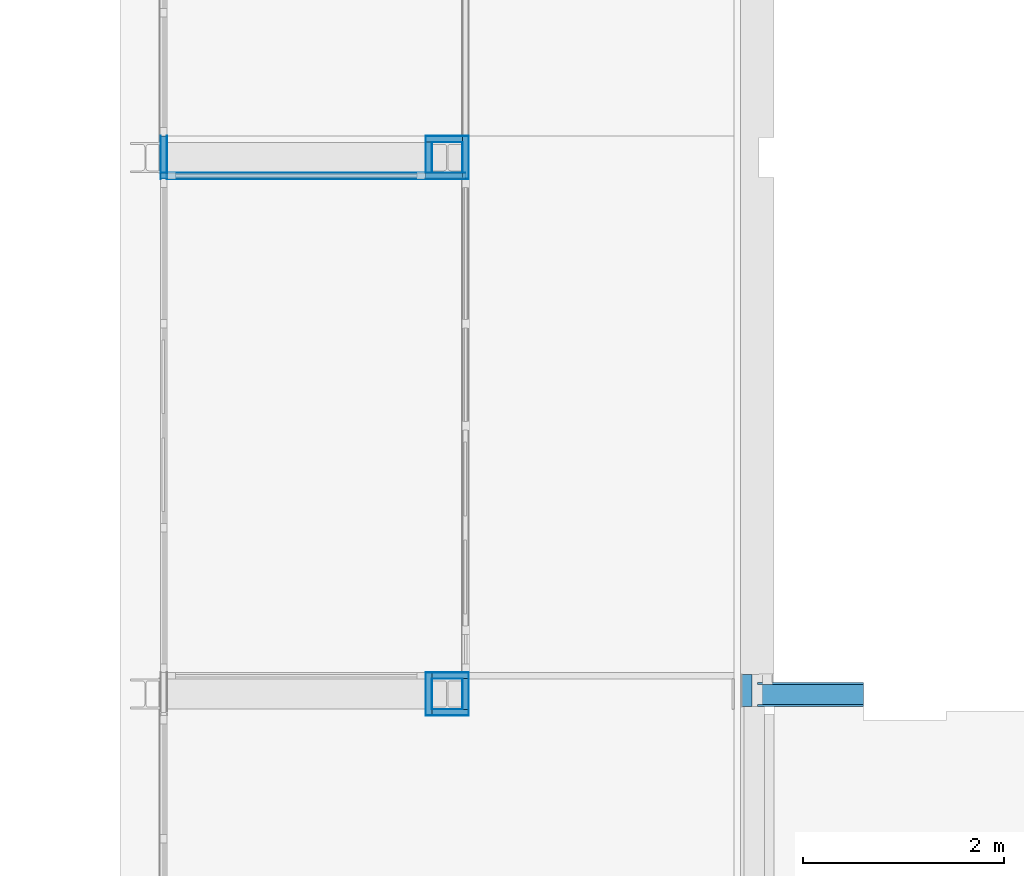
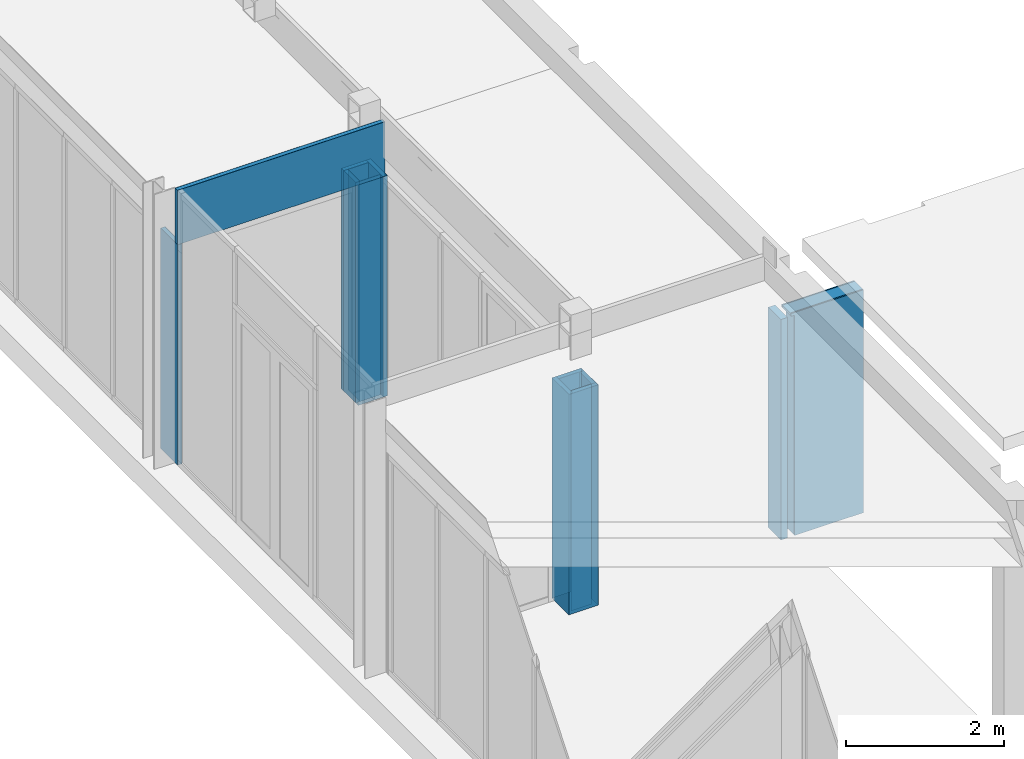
# One storey, part 64 of 99: 34 building element parts, 12 elements without a shape of their own.
"""IFC2X3 building model written with IfcOpenShell, lengths in millimetres."""

from ifc_helpers import new_model, entity, si_unit, converted_unit, derived_unit, money_unit, direction, frame, origin_with_axes, place, context, subcontext, project, spatial, faceted_brep, material, type_object, element, aggregate, save


model = new_model("IFC2X3")

# Units and contexts
model_context = context("Model", 3, precision=0.01, world=origin_with_axes(), true_north=direction((0.0, 1.0)))
body_context = subcontext(model_context, "Body", "Model", "MODEL_VIEW")
ifc_project = project(units=[si_unit("LENGTHUNIT", "METRE", prefix="MILLI"), si_unit("AREAUNIT", "SQUARE_METRE"), si_unit("VOLUMEUNIT", "CUBIC_METRE"), converted_unit("PLANEANGLEUNIT", "DEGREE", entity("IfcPlaneAngleMeasure", 0.0174532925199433), si_unit("PLANEANGLEUNIT", "RADIAN"), dimensions=[0, 0, 0, 0, 0, 0, 0]), money_unit("EUR"), converted_unit("TIMEUNIT", "Year", entity("IfcTimeMeasure", 31557600.0), si_unit("TIMEUNIT", "SECOND"), dimensions=[0, 0, 1, 0, 0, 0, 0]), si_unit("MASSUNIT", "GRAM", prefix="KILO"), si_unit("THERMODYNAMICTEMPERATUREUNIT", "DEGREE_CELSIUS"), si_unit("LUMINOUSINTENSITYUNIT", "LUMEN"), si_unit("ENERGYUNIT", "JOULE", prefix="MEGA"), derived_unit("THERMALCONDUCTANCEUNIT", [(si_unit("POWERUNIT", "WATT"), 1), (si_unit("LENGTHUNIT", "METRE"), -1), (si_unit("THERMODYNAMICTEMPERATUREUNIT", "KELVIN"), -1)]), derived_unit("SPECIFICHEATCAPACITYUNIT", [(si_unit("ENERGYUNIT", "JOULE"), 1), (si_unit("MASSUNIT", "GRAM", prefix="KILO"), -1), (si_unit("THERMODYNAMICTEMPERATUREUNIT", "KELVIN"), -1)]), derived_unit("MASSDENSITYUNIT", [(si_unit("MASSUNIT", "GRAM", prefix="KILO"), 1), (si_unit("VOLUMEUNIT", "CUBIC_METRE"), -1)])], contexts=[model_context])

# Site, building, storey
site_placement = place(None, origin_with_axes())
site = spatial("IfcSite", under=ifc_project, at=site_placement, Name="Site", CompositionType="ELEMENT")
building_placement = place(site_placement, origin_with_axes())
building = spatial("IfcBuilding", under=site, at=building_placement, Name="Naam gebouw", CompositionType="ELEMENT")
storey_placement = place(building_placement, frame((0.0, 0.0, 7650.0), z_axis=(0.0, 0.0, 1.0), x_axis=(1.0, 0.0, 0.0)))
storey = spatial("IfcBuildingStorey", under=building, at=storey_placement, Name="2e verdieping N", CompositionType="ELEMENT", Elevation=7650.0)

# Wall, building element parts
wall_type_1 = type_object("IfcWallType", Name="Basic Wall:31_WA_ALU_PANEEL", PredefinedType="STANDARD")
wall_1_placement = place(storey_placement, frame((17108.50000005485, 27773.41242635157, -3500.0), z_axis=(0.0, 0.0, 1.0), x_axis=(1.0, 0.0, 0.0)))
wall_1 = element("IfcWall", 1, at=wall_1_placement, inside=storey, type_object=wall_type_1, Name="Basic Wall:31_WA_ALU_PANEEL")
ifc_material_1 = material(Name="Aluminum geanodiseerd RAL 7024")
building_element_part_1_placement = place(wall_1_placement, origin_with_axes())
building_element_part_1 = element("IfcBuildingElementPart", 2, at=building_element_part_1_placement, material=ifc_material_1, Name="Aluminum geanodiseerd RAL 7024", context=body_context, shape_type="Brep", body=[
    faceted_brep([(334.9999999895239, 29.99999996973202, 0.0), (32.49999999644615, 29.99999996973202, 0.0), (32.4999999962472, 32.4999999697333, 0.0), (334.9999999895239, 32.4999999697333, 0.0), (334.9999999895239, 29.99999996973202, 3399.999999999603), (32.49999999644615, 29.99999996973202, 3399.999999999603), (32.4999999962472, 32.4999999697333, 3399.999999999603), (334.9999999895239, 32.4999999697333, 3399.999999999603)], [[[0, 1, 2, 3]], [[4, 5, 1, 0]], [[2, 1, 5, 6]], [[3, 2, 6, 7]], [[3, 7, 4, 0]], [[7, 6, 5, 4]]]),
])
ifc_material_2 = material(Name="isolatie_080_1-100")
building_element_part_2_placement = place(wall_1_placement, origin_with_axes())
building_element_part_2 = element("IfcBuildingElementPart", 3, at=building_element_part_2_placement, material=ifc_material_2, Name="isolatie_080_1-100", context=body_context, shape_type="Brep", body=[
    faceted_brep([(394.9999999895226, -30.0000000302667, 0.0), (30.00000000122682, -30.0000000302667, 0.0), (29.99999999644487, 29.99999996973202, 0.0), (394.9999999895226, 29.99999996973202, 0.0), (394.9999999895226, -30.0000000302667, 3399.999999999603), (30.00000000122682, -30.0000000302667, 3399.999999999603), (29.99999999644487, 29.99999996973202, 3399.999999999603), (394.9999999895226, 29.99999996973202, 3399.999999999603)], [[[0, 1, 2, 3]], [[4, 5, 1, 0]], [[2, 1, 5, 6]], [[3, 2, 6, 7]], [[3, 7, 4, 0]], [[7, 6, 5, 4]]]),
])
building_element_part_3_placement = place(wall_1_placement, origin_with_axes())
building_element_part_3 = element("IfcBuildingElementPart", 4, at=building_element_part_3_placement, material=ifc_material_1, Name="Aluminum geanodiseerd RAL 7024", context=body_context, shape_type="Brep", body=[
    faceted_brep([(397.4999999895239, -32.50000003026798, 0.0), (-29.99999999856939, -32.50000003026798, 0.0), (-29.9999999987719, -30.0000000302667, 0.0), (397.4999999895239, -30.0000000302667, 0.0), (397.4999999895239, -32.50000003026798, 3399.999999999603), (-29.99999999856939, -32.50000003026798, 3399.999999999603), (-29.9999999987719, -30.0000000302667, 3399.999999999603), (397.4999999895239, -30.0000000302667, 3399.999999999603)], [[[0, 1, 2, 3]], [[4, 5, 1, 0]], [[2, 1, 5, 6]], [[3, 2, 6, 7]], [[3, 7, 4, 0]], [[7, 6, 5, 4]]]),
])
aggregate(wall_1, [building_element_part_1, building_element_part_2, building_element_part_3])

wall_2_placement = place(storey_placement, frame((14474.50000003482, 33070.9124263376, -3500.0), z_axis=(0.0, 0.0, 1.0), x_axis=(0.0, 1.0, 0.0)))
wall_2 = element("IfcWall", 5, at=wall_2_placement, inside=storey, type_object=wall_type_1, Name="Basic Wall:31_WA_ALU_PANEEL")
building_element_part_4_placement = place(wall_2_placement, origin_with_axes())
building_element_part_4 = element("IfcBuildingElementPart", 6, at=building_element_part_4_placement, material=ifc_material_1, Name="Aluminum geanodiseerd RAL 7024", context=body_context, shape_type="Brep", body=[
    faceted_brep([(429.9999999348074, 32.49999996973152, 0.0), (429.9999999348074, 29.99999996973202, 0.0), (0.0, 29.99999996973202, 0.0), (0.0, 32.49999996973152, 0.0), (429.9999999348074, 32.49999996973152, 3399.999999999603), (429.9999999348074, 29.99999996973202, 3399.999999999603), (0.0, 29.99999996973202, 3399.999999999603), (0.0, 32.49999996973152, 3399.999999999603)], [[[0, 1, 2, 3]], [[0, 4, 5, 1]], [[1, 5, 6, 2]], [[3, 2, 6, 7]], [[4, 0, 3, 7]], [[5, 4, 7, 6]]]),
])
building_element_part_5_placement = place(wall_2_placement, origin_with_axes())
building_element_part_5 = element("IfcBuildingElementPart", 7, at=building_element_part_5_placement, material=ifc_material_2, Name="isolatie_080_1-100", context=body_context, shape_type="Brep", body=[
    faceted_brep([(429.9999999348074, 29.99999996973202, 0.0), (429.9999999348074, -30.00000003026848, 0.0), (0.0, -30.00000003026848, 0.0), (0.0, 29.99999996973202, 0.0), (429.9999999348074, 29.99999996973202, 3399.999999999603), (429.9999999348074, -30.00000003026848, 3399.999999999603), (0.0, -30.00000003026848, 3399.999999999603), (0.0, 29.99999996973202, 3399.999999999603)], [[[0, 1, 2, 3]], [[0, 4, 5, 1]], [[1, 5, 6, 2]], [[3, 2, 6, 7]], [[4, 0, 3, 7]], [[5, 4, 7, 6]]]),
])
building_element_part_6_placement = place(wall_2_placement, origin_with_axes())
building_element_part_6 = element("IfcBuildingElementPart", 8, at=building_element_part_6_placement, material=ifc_material_1, Name="Aluminum geanodiseerd RAL 7024", context=body_context, shape_type="Brep", body=[
    faceted_brep([(429.9999999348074, -30.00000003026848, 0.0), (429.9999999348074, -32.50000003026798, 0.0), (0.0, -32.50000003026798, 0.0), (0.0, -30.00000003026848, 0.0), (429.9999999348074, -30.00000003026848, 3399.999999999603), (429.9999999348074, -32.50000003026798, 3399.999999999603), (0.0, -32.50000003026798, 3399.999999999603), (0.0, -30.00000003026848, 3399.999999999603)], [[[0, 1, 2, 3]], [[0, 4, 5, 1]], [[1, 5, 6, 2]], [[3, 2, 6, 7]], [[4, 0, 3, 7]], [[5, 4, 7, 6]]]),
])
aggregate(wall_2, [building_element_part_4, building_element_part_5, building_element_part_6])

wall_3_placement = place(storey_placement, frame((17108.50000002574, 28138.41242634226, -3500.0), z_axis=(0.0, 0.0, 1.0), x_axis=(0.0, -1.0, 0.0)))
wall_3 = element("IfcWall", 9, at=wall_3_placement, inside=storey, type_object=wall_type_1, Name="Basic Wall:31_WA_ALU_PANEEL")
building_element_part_7_placement = place(wall_3_placement, origin_with_axes())
building_element_part_7 = element("IfcBuildingElementPart", 10, at=building_element_part_7_placement, material=ifc_material_1, Name="Aluminum geanodiseerd RAL 7024", context=body_context, shape_type="Brep", body=[
    faceted_brep([(335.0000000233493, 29.99999997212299, 0.0), (29.99999997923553, 29.99999999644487, 0.0), (29.99999997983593, 32.49999999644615, 0.0), (335.0000000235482, 32.49999997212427, 0.0), (335.0000000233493, 29.99999997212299, 3399.999999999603), (29.99999997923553, 29.99999999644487, 3399.999999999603), (29.99999997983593, 32.49999999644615, 3399.999999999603), (335.0000000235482, 32.49999997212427, 3399.999999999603)], [[[0, 1, 2, 3]], [[4, 5, 1, 0]], [[2, 1, 5, 6]], [[3, 2, 6, 7]], [[3, 7, 4, 0]], [[7, 6, 5, 4]]]),
])
building_element_part_8_placement = place(wall_3_placement, origin_with_axes())
building_element_part_8 = element("IfcBuildingElementPart", 11, at=building_element_part_8_placement, material=ifc_material_2, Name="isolatie_080_1-100", context=body_context, shape_type="Brep", body=[
    faceted_brep([(395.0000000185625, -30.00000003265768, 0.0), (-30.00000003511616, -29.9999999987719, 0.0), (-30.0000000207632, 30.00000000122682, 0.0), (395.000000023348, 29.99999996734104, 0.0), (395.0000000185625, -30.00000003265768, 3399.999999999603), (-30.00000003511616, -29.9999999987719, 3399.999999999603), (-30.0000000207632, 30.00000000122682, 3399.999999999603), (395.000000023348, 29.99999996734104, 3399.999999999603)], [[[0, 1, 2, 3]], [[4, 5, 1, 0]], [[2, 1, 5, 6]], [[3, 2, 6, 7]], [[3, 7, 4, 0]], [[7, 6, 5, 4]]]),
])
building_element_part_9_placement = place(wall_3_placement, origin_with_axes())
building_element_part_9 = element("IfcBuildingElementPart", 12, at=building_element_part_9_placement, material=ifc_material_1, Name="Aluminum geanodiseerd RAL 7024", context=body_context, shape_type="Brep", body=[
    faceted_brep([(397.5000000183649, -32.50000003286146, 0.0), (-32.50000003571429, -32.49999999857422, 0.0), (-32.50000003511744, -29.99999999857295, 0.0), (397.5000000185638, -30.00000003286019, 0.0), (397.5000000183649, -32.50000003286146, 3399.999999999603), (-32.50000003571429, -32.49999999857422, 3399.999999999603), (-32.50000003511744, -29.99999999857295, 3399.999999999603), (397.5000000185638, -30.00000003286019, 3399.999999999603)], [[[0, 1, 2, 3]], [[4, 5, 1, 0]], [[2, 1, 5, 6]], [[3, 2, 6, 7]], [[3, 7, 4, 0]], [[7, 6, 5, 4]]]),
])
aggregate(wall_3, [building_element_part_7, building_element_part_8, building_element_part_9])

wall_4_placement = place(storey_placement, frame((17473.50000001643, 33103.41242630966, -3500.0), z_axis=(0.0, 0.0, 1.0), x_axis=(0.0, 1.0, 0.0)))
wall_4 = element("IfcWall", 13, at=wall_4_placement, inside=storey, type_object=wall_type_1, Name="Basic Wall:31_WA_ALU_PANEEL")
building_element_part_10_placement = place(wall_4_placement, origin_with_axes())
building_element_part_10 = element("IfcBuildingElementPart", 14, at=building_element_part_10_placement, material=ifc_material_1, Name="Aluminum geanodiseerd RAL 7024", context=body_context, shape_type="Brep", body=[
    faceted_brep([(397.499999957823, -32.50000006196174, 0.0), (-32.50000002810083, -32.5000000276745, 0.0), (-32.50000002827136, -30.00000002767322, 0.0), (397.499999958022, -30.00000006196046, 0.0), (397.499999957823, -32.50000006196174, 3399.999999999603), (-32.50000002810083, -32.5000000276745, 3399.999999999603), (-32.50000002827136, -30.00000002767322, 3399.999999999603), (397.499999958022, -30.00000006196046, 3399.999999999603)], [[[0, 1, 2, 3]], [[4, 5, 1, 0]], [[2, 1, 5, 6]], [[3, 2, 6, 7]], [[3, 7, 4, 0]], [[7, 6, 5, 4]]]),
])
building_element_part_11_placement = place(wall_4_placement, origin_with_axes())
building_element_part_11 = element("IfcBuildingElementPart", 15, at=building_element_part_11_placement, material=ifc_material_2, Name="isolatie_080_1-100", context=body_context, shape_type="Brep", body=[
    faceted_brep([(394.9999999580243, -30.00000006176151, 0.0), (-30.00000002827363, -30.00000002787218, 0.0), (-30.00000003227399, 29.99999997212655, 0.0), (394.9999999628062, 29.99999993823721, 0.0), (394.9999999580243, -30.00000006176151, 3399.999999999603), (-30.00000002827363, -30.00000002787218, 3399.999999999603), (-30.00000003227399, 29.99999997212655, 3399.999999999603), (394.9999999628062, 29.99999993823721, 3399.999999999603)], [[[0, 1, 2, 3]], [[4, 5, 1, 0]], [[2, 1, 5, 6]], [[3, 2, 6, 7]], [[3, 7, 4, 0]], [[7, 6, 5, 4]]]),
])

wall_5_placement = place(storey_placement, frame((17108.50000002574, 33468.41242630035, -3500.0), z_axis=(0.0, 0.0, 1.0), x_axis=(1.0, 0.0, 0.0)))
wall_5 = element("IfcWall", 16, at=wall_5_placement, inside=storey, type_object=wall_type_1, Name="Basic Wall:31_WA_ALU_PANEEL")
building_element_part_12_placement = place(wall_5_placement, origin_with_axes())
building_element_part_12 = element("IfcBuildingElementPart", 17, at=building_element_part_12_placement, material=ifc_material_1, Name="Aluminum geanodiseerd RAL 7024", context=body_context, shape_type="Brep", body=[
    faceted_brep([(394.9999999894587, 29.99999996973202, 0.0), (-32.4999999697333, 29.99999996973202, 0.0), (-32.4999999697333, 32.49999996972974, 0.0), (394.9999999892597, 32.49999996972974, 0.0), (394.9999999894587, 29.99999996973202, 3399.999999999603), (-32.4999999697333, 29.99999996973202, 3399.999999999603), (-32.4999999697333, 32.49999996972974, 3399.999999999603), (394.9999999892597, 32.49999996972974, 3399.999999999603)], [[[0, 1, 2, 3]], [[4, 5, 1, 0]], [[2, 1, 5, 6]], [[3, 2, 6, 7]], [[3, 7, 4, 0]], [[7, 6, 5, 4]]]),
])
building_element_part_13_placement = place(wall_5_placement, origin_with_axes())
building_element_part_13 = element("IfcBuildingElementPart", 18, at=building_element_part_13_placement, material=ifc_material_2, Name="isolatie_080_1-100", context=body_context, shape_type="Brep", body=[
    faceted_brep([(334.9999999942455, -30.00000003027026, 0.0), (-29.99999996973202, -30.00000003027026, 0.0), (-29.99999996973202, 29.99999996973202, 0.0), (334.99999998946, 29.99999996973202, 0.0), (334.9999999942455, -30.00000003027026, 3399.999999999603), (-29.99999996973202, -30.00000003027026, 3399.999999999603), (-29.99999996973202, 29.99999996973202, 3399.999999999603), (334.99999998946, 29.99999996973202, 3399.999999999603)], [[[0, 1, 2, 3]], [[4, 5, 1, 0]], [[2, 1, 5, 6]], [[3, 2, 6, 7]], [[3, 7, 4, 0]], [[7, 6, 5, 4]]]),
])
building_element_part_14_placement = place(wall_5_placement, origin_with_axes())
building_element_part_14 = element("IfcBuildingElementPart", 19, at=building_element_part_14_placement, material=ifc_material_1, Name="Aluminum geanodiseerd RAL 7024", context=body_context, shape_type="Brep", body=[
    faceted_brep([(332.4999999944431, -32.50000003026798, 0.0), (30.0000000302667, -32.50000003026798, 0.0), (30.0000000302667, -30.00000003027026, 0.0), (332.4999999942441, -30.00000003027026, 0.0), (332.4999999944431, -32.50000003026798, 3399.999999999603), (30.0000000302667, -32.50000003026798, 3399.999999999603), (30.0000000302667, -30.00000003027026, 3399.999999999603), (332.4999999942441, -30.00000003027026, 3399.999999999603)], [[[0, 1, 2, 3]], [[4, 5, 1, 0]], [[2, 1, 5, 6]], [[3, 2, 6, 7]], [[3, 7, 4, 0]], [[7, 6, 5, 4]]]),
])
aggregate(wall_5, [building_element_part_12, building_element_part_13, building_element_part_14])

# Building element part
building_element_part_15_placement = place(wall_4_placement, origin_with_axes())
building_element_part_15 = element("IfcBuildingElementPart", 20, at=building_element_part_15_placement, material=ifc_material_1, Name="Aluminum geanodiseerd RAL 7024", context=body_context, shape_type="Brep", body=[
    faceted_brep([(334.9999999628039, 29.99999994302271, 0.0), (29.99999996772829, 29.99999996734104, 0.0), (29.99999996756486, 32.49999996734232, 0.0), (334.99999996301, 32.49999994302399, 0.0), (334.9999999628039, 29.99999994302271, 3399.999999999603), (29.99999996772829, 29.99999996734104, 3399.999999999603), (29.99999996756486, 32.49999996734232, 3399.999999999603), (334.99999996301, 32.49999994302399, 3399.999999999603)], [[[0, 1, 2, 3]], [[4, 5, 1, 0]], [[2, 1, 5, 6]], [[3, 2, 6, 7]], [[3, 7, 4, 0]], [[7, 6, 5, 4]]]),
])

aggregate(wall_4, [building_element_part_10, building_element_part_11, building_element_part_15])

# Wall, building element parts
wall_type_2 = type_object("IfcWallType", Name="Basic Wall:NLRS_20_bestaand 240mm", PredefinedType="STANDARD")
wall_6_placement = place(storey_placement, frame((20371.00000006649, 27950.91242628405, -3500.0), z_axis=(0.0, 0.0, 1.0), x_axis=(1.0, 0.0, 0.0)))
wall_6 = element("IfcWall", 21, at=wall_6_placement, inside=storey, type_object=wall_type_2, Name="Basic Wall:NLRS_20_bestaand 240mm")
ifc_material_3 = material(Name="Bestaand metselwerk")
building_element_part_16_placement = place(wall_6_placement, origin_with_axes())
building_element_part_16 = element("IfcBuildingElementPart", 22, at=building_element_part_16_placement, material=ifc_material_3, Name="Bestaand metselwerk", context=body_context, shape_type="Brep", body=[
    faceted_brep([(1054.999999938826, -99.99999993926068, 3440.000000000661), (1054.999999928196, 100.0000000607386, 3440.000000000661), (-1.169553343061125e-08, 100.0000000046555, 3439.999999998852), (-1.06581410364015e-09, -99.99999999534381, 3439.999999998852), (1054.999999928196, 100.0000000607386, 0.0), (1054.999999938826, -99.99999993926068, 0.0), (49.99999999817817, 100.0000000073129, 0.0), (49.99999999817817, 100.0000000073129, 3399.999999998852), (-1.169553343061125e-08, 100.0000000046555, 3399.999999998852), (-1.06581410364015e-09, -99.99999999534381, 3399.999999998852), (50.00000000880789, -99.99999999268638, 3399.999999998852), (50.00000000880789, -99.99999999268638, 0.0)], [[[0, 1, 2, 3]], [[4, 1, 0, 5]], [[1, 4, 6, 7, 8, 2]], [[2, 8, 9, 3]], [[5, 0, 3, 9, 10, 11]], [[4, 5, 11, 6]], [[10, 7, 6, 11]], [[9, 8, 7, 10]]]),
])
ifc_material_4 = material(Name="stucwerk")
building_element_part_17_placement = place(wall_6_placement, origin_with_axes())
building_element_part_17 = element("IfcBuildingElementPart", 23, at=building_element_part_17_placement, material=ifc_material_4, Name="stucwerk", context=body_context, shape_type="Brep", body=[
    faceted_brep([(1054.999999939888, -119.9999999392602, 3440.000000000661), (1054.999999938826, -99.99999993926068, 3440.000000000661), (-1.06581410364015e-09, -99.99999999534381, 3439.999999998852), (0.0, -119.9999999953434, 3439.999999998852), (1054.999999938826, -99.99999993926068, 0.0), (1054.999999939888, -119.9999999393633, 0.0), (50.00000000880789, -99.99999999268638, 0.0), (50.00000000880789, -99.99999999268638, 3399.999999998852), (-1.06581410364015e-09, -99.99999999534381, 3399.999999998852), (0.0, -119.9999999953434, 3399.999999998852), (50.00000000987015, -119.9999999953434, 3399.999999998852), (50.00000000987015, -119.9999999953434, 0.0)], [[[0, 1, 2, 3]], [[4, 1, 0, 5]], [[1, 4, 6, 7, 8, 2]], [[2, 8, 9, 3]], [[5, 0, 3, 9, 10, 11]], [[4, 5, 11, 6]], [[10, 7, 6, 11]], [[9, 8, 7, 10]]]),
])
building_element_part_18_placement = place(wall_6_placement, origin_with_axes())
building_element_part_18 = element("IfcBuildingElementPart", 24, at=building_element_part_18_placement, material=ifc_material_4, Name="stucwerk", context=body_context, shape_type="Brep", body=[
    faceted_brep([(1054.999999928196, 100.0000000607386, 3440.000000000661), (1054.99999992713, 120.0000000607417, 3440.000000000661), (-1.27613475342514e-08, 120.000000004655, 3439.999999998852), (-1.169553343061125e-08, 100.0000000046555, 3439.999999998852), (1054.99999992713, 120.0000000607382, 0.0), (1054.999999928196, 100.0000000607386, 0.0), (149.9999999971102, 120.0000000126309, 0.0), (149.9999999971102, 120.0000000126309, 3399.999999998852), (-1.27613475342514e-08, 120.000000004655, 3399.999999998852), (-1.169553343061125e-08, 100.0000000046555, 3399.999999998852), (149.999999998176, 100.0000000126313, 3399.999999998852), (149.999999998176, 100.0000000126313, 0.0)], [[[0, 1, 2, 3]], [[4, 1, 0, 5]], [[1, 4, 6, 7, 8, 2]], [[2, 8, 9, 3]], [[5, 0, 3, 9, 10, 11]], [[4, 5, 11, 6]], [[10, 7, 6, 11]], [[8, 7, 10, 9]]]),
])
aggregate(wall_6, [building_element_part_16, building_element_part_17, building_element_part_18])

# Wall, building element part
wall_type_3 = type_object("IfcWallType", Name="Basic Wall:21_WA_gevel V spouwmuur", PredefinedType="STANDARD")
wall_7_placement = place(storey_placement, frame((20371.00000006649, 27950.91242628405, -3500.0), z_axis=(0.0, 0.0, 1.0), x_axis=(-1.455191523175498e-10, 1.0, 0.0)))
wall_7 = element("IfcWall", 25, at=wall_7_placement, inside=storey, type_object=wall_type_3, Name="Basic Wall:21_WA_gevel V spouwmuur")
ifc_material_5 = material(Name="metselwerk")
building_element_part_19_placement = place(wall_7_placement, origin_with_axes())
building_element_part_19 = element("IfcBuildingElementPart", 26, at=building_element_part_19_placement, material=ifc_material_5, Name="metselwerk", context=body_context, shape_type="Brep", body=[
    faceted_brep([(199.9999999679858, 149.9999999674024, 0.0), (199.9999999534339, 49.99999996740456, 0.0), (-119.99999998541, 50.00000001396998, 0.0), (-119.9999999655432, 150.0000000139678, 0.0), (199.9999999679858, 149.9999999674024, 3399.999999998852), (199.9999999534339, 49.99999996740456, 3399.999999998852), (-119.99999998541, 50.00000001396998, 3399.999999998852), (-119.9999999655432, 150.0000000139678, 3399.999999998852)], [[[0, 1, 2, 3]], [[0, 4, 5, 1]], [[1, 5, 6, 2]], [[3, 2, 6, 7]], [[4, 0, 3, 7]], [[5, 4, 7, 6]]]),
])
aggregate(wall_7, [building_element_part_19])

# Wall, building element parts
wall_8_placement = place(storey_placement, frame((17473.50000001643, 28138.41242628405, -3500.0), z_axis=(0.0, 0.0, 1.0), x_axis=(0.0, -1.0, 0.0)))
wall_8 = element("IfcWall", 27, at=wall_8_placement, inside=storey, type_object=wall_type_1, Name="Basic Wall:31_WA_ALU_PANEEL")
building_element_part_20_placement = place(wall_8_placement, origin_with_axes())
building_element_part_20 = element("IfcBuildingElementPart", 28, at=building_element_part_20_placement, material=ifc_material_2, Name="isolatie_080_1-100", context=body_context, shape_type="Brep", body=[
    faceted_brep([(334.9999999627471, -29.99999997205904, 0.0), (29.99999996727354, -29.99999997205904, 0.0), (29.999999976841, 30.00000002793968, 0.0), (334.9999999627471, 30.00000002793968, 0.0), (334.9999999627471, -29.99999997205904, 3399.999999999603), (29.99999996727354, -29.99999997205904, 3399.999999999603), (29.999999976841, 30.00000002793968, 3399.999999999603), (334.9999999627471, 30.00000002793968, 3399.999999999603)], [[[0, 1, 2, 3]], [[4, 5, 1, 0]], [[2, 1, 5, 6]], [[3, 2, 6, 7]], [[3, 7, 4, 0]], [[7, 6, 5, 4]]]),
])
building_element_part_21_placement = place(wall_8_placement, origin_with_axes())
building_element_part_21 = element("IfcBuildingElementPart", 29, at=building_element_part_21_placement, material=ifc_material_1, Name="Aluminum geanodiseerd RAL 7024", context=body_context, shape_type="Brep", body=[
    faceted_brep([(394.9999999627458, 30.00000002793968, 0.0), (-30.00000002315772, 30.00000002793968, 0.0), (-30.00000002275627, 32.50000002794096, 0.0), (394.9999999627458, 32.50000002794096, 0.0), (394.9999999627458, 30.00000002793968, 3399.999999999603), (-30.00000002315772, 30.00000002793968, 3399.999999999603), (-30.00000002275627, 32.50000002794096, 3399.999999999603), (394.9999999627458, 32.50000002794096, 3399.999999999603)], [[[0, 1, 2, 3]], [[4, 5, 1, 0]], [[2, 1, 5, 6]], [[3, 2, 6, 7]], [[3, 7, 4, 0]], [[7, 6, 5, 4]]]),
])
building_element_part_22_placement = place(wall_8_placement, origin_with_axes())
building_element_part_22 = element("IfcBuildingElementPart", 30, at=building_element_part_22_placement, material=ifc_material_1, Name="Aluminum geanodiseerd RAL 7024", context=body_context, shape_type="Brep", body=[
    faceted_brep([(332.4999999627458, -32.49999997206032, 0.0), (32.49999996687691, -32.49999997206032, 0.0), (32.49999996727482, -29.99999997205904, 0.0), (332.4999999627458, -29.99999997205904, 0.0), (332.4999999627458, -32.49999997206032, 3399.999999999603), (32.49999996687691, -32.49999997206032, 3399.999999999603), (32.49999996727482, -29.99999997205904, 3399.999999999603), (332.4999999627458, -29.99999997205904, 3399.999999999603)], [[[0, 1, 2, 3]], [[4, 5, 1, 0]], [[2, 1, 5, 6]], [[3, 2, 6, 7]], [[3, 7, 4, 0]], [[7, 6, 5, 4]]]),
])
aggregate(wall_8, [building_element_part_20, building_element_part_21, building_element_part_22])

wall_9_placement = place(storey_placement, frame((17108.50000002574, 28138.41242634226, -3500.0), z_axis=(0.0, 0.0, 1.0), x_axis=(1.0, -1.594730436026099e-10, 0.0)))
wall_9 = element("IfcWall", 31, at=wall_9_placement, inside=storey, type_object=wall_type_1, Name="Basic Wall:31_WA_ALU_PANEEL")
building_element_part_23_placement = place(wall_9_placement, origin_with_axes())
building_element_part_23 = element("IfcBuildingElementPart", 32, at=building_element_part_23_placement, material=ifc_material_2, Name="isolatie_080_1-100", context=body_context, shape_type="Brep", body=[
    faceted_brep([(395.000000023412, -29.99999990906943, 0.0), (30.00000000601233, -29.99999996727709, 0.0), (29.99999999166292, 30.00000003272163, 0.0), (395.0000000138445, 30.00000009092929, 0.0), (395.000000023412, -29.99999990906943, 3399.999999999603), (30.00000000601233, -29.99999996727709, 3399.999999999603), (29.99999999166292, 30.00000003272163, 3399.999999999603), (395.0000000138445, 30.00000009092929, 3399.999999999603)], [[[0, 1, 2, 3]], [[4, 5, 1, 0]], [[2, 1, 5, 6]], [[3, 2, 6, 7]], [[3, 7, 4, 0]], [[7, 6, 5, 4]]]),
])
building_element_part_24_placement = place(wall_9_placement, origin_with_axes())
building_element_part_24 = element("IfcBuildingElementPart", 33, at=building_element_part_24_placement, material=ifc_material_1, Name="Aluminum geanodiseerd RAL 7024", context=body_context, shape_type="Brep", body=[
    faceted_brep([(335.0000000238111, -32.49999991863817, 0.0), (32.50000000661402, -32.49999996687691, 0.0), (32.50000000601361, -29.99999996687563, 0.0), (335.0000000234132, -29.99999991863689, 0.0), (335.0000000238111, -32.49999991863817, 3399.999999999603), (32.50000000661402, -32.49999996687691, 3399.999999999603), (32.50000000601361, -29.99999996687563, 3399.999999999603), (335.0000000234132, -29.99999991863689, 3399.999999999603)], [[[0, 1, 2, 3]], [[4, 5, 1, 0]], [[2, 1, 5, 6]], [[3, 2, 6, 7]], [[3, 7, 4, 0]], [[7, 6, 5, 4]]]),
])
building_element_part_25_placement = place(wall_9_placement, origin_with_axes())
building_element_part_25 = element("IfcBuildingElementPart", 34, at=building_element_part_25_placement, material=ifc_material_1, Name="Aluminum geanodiseerd RAL 7024", context=body_context, shape_type="Brep", body=[
    faceted_brep([(397.5000000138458, 30.00000009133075, 0.0), (-30.0000000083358, 30.00000002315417, 0.0), (-30.00000000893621, 32.50000002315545, 0.0), (397.5000000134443, 32.50000009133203, 0.0), (397.5000000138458, 30.00000009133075, 3399.999999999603), (-30.0000000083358, 30.00000002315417, 3399.999999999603), (-30.00000000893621, 32.50000002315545, 3399.999999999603), (397.5000000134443, 32.50000009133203, 3399.999999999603)], [[[0, 1, 2, 3]], [[4, 5, 1, 0]], [[2, 1, 5, 6]], [[3, 2, 6, 7]], [[3, 7, 4, 0]], [[7, 6, 5, 4]]]),
])
aggregate(wall_9, [building_element_part_23, building_element_part_24, building_element_part_25])

wall_10_placement = place(storey_placement, frame((17076.00000005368, 33103.41242625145, -3500.0), z_axis=(0.0, 0.0, 1.0), x_axis=(1.0, 1.46434367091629e-10, 0.0)))
wall_10 = element("IfcWall", 35, at=wall_10_placement, inside=storey, type_object=wall_type_1, Name="Basic Wall:31_WA_ALU_PANEEL")
building_element_part_26_placement = place(wall_10_placement, origin_with_axes())
building_element_part_26 = element("IfcBuildingElementPart", 36, at=building_element_part_26_placement, material=ifc_material_1, Name="Aluminum geanodiseerd RAL 7024", context=body_context, shape_type="Brep", body=[
    faceted_brep([(364.999999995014, 29.99999991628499, 0.0), (4.391154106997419e-09, 29.99999996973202, 0.0), (4.757083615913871e-09, 32.49999996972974, 0.0), (364.9999999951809, 32.49999991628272, 0.0), (364.999999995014, 29.99999991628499, 3399.999999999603), (4.391154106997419e-09, 29.99999996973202, 3399.999999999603), (4.757083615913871e-09, 32.49999996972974, 3399.999999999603), (364.9999999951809, 32.49999991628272, 3399.999999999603)], [[[0, 1, 2, 3]], [[4, 5, 1, 0]], [[2, 1, 5, 6]], [[3, 2, 6, 7]], [[3, 7, 4, 0]], [[7, 6, 5, 4]]]),
])
building_element_part_27_placement = place(wall_10_placement, origin_with_axes())
building_element_part_27 = element("IfcBuildingElementPart", 37, at=building_element_part_27_placement, material=ifc_material_1, Name="Aluminum geanodiseerd RAL 7024", context=body_context, shape_type="Brep", body=[
    faceted_brep([(427.4999999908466, -32.5000000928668, 0.0), (-4.760636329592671e-09, -32.50000003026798, 0.0), (-4.39470682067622e-09, -30.00000003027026, 0.0), (427.4999999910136, -30.00000009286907, 0.0), (427.4999999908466, -32.5000000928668, 3399.999999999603), (-4.760636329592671e-09, -32.50000003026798, 3399.999999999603), (-4.39470682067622e-09, -30.00000003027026, 3399.999999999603), (427.4999999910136, -30.00000009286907, 3399.999999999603)], [[[0, 1, 2, 3]], [[4, 5, 1, 0]], [[2, 1, 5, 6]], [[3, 2, 6, 7]], [[3, 7, 4, 0]], [[7, 6, 5, 4]]]),
])
building_element_part_28_placement = place(wall_10_placement, origin_with_axes())
building_element_part_28 = element("IfcBuildingElementPart", 38, at=building_element_part_28_placement, material=ifc_material_2, Name="isolatie_080_1-100", context=body_context, shape_type="Brep", body=[
    faceted_brep([(367.4999999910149, -30.00000008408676, 0.0), (-4.39470682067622e-09, -30.00000003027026, 0.0), (4.391154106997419e-09, 29.99999996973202, 0.0), (367.4999999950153, 29.99999991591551, 0.0), (367.4999999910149, -30.00000008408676, 3399.999999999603), (-4.39470682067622e-09, -30.00000003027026, 3399.999999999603), (4.391154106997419e-09, 29.99999996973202, 3399.999999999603), (367.4999999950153, 29.99999991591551, 3399.999999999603)], [[[0, 1, 2, 3]], [[4, 5, 1, 0]], [[2, 1, 5, 6]], [[3, 2, 6, 7]], [[3, 7, 4, 0]], [[7, 6, 5, 4]]]),
])
aggregate(wall_10, [building_element_part_26, building_element_part_27, building_element_part_28])

wall_11_placement = place(storey_placement, frame((17108.50000002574, 33103.41242630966, -3500.0), z_axis=(0.0, 0.0, 1.0), x_axis=(0.0, 1.0, 0.0)))
wall_11 = element("IfcWall", 39, at=wall_11_placement, inside=storey, type_object=wall_type_1, Name="Basic Wall:31_WA_ALU_PANEEL")
building_element_part_29_placement = place(wall_11_placement, origin_with_axes())
building_element_part_29 = element("IfcBuildingElementPart", 40, at=building_element_part_29_placement, material=ifc_material_1, Name="Aluminum geanodiseerd RAL 7024", context=body_context, shape_type="Brep", body=[
    faceted_brep([(394.9999999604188, 29.99999996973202, 0.0), (32.49999991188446, 29.99999996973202, 0.0), (32.49999991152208, 32.4999999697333, 0.0), (394.9999999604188, 32.4999999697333, 0.0), (394.9999999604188, 29.99999996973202, 3399.999999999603), (32.49999991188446, 29.99999996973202, 3399.999999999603), (32.49999991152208, 32.4999999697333, 3399.999999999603), (394.9999999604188, 32.4999999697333, 3399.999999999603)], [[[0, 1, 2, 3]], [[4, 5, 1, 0]], [[2, 1, 5, 6]], [[3, 2, 6, 7]], [[3, 7, 4, 0]], [[7, 6, 5, 4]]]),
])
building_element_part_30_placement = place(wall_11_placement, origin_with_axes())
building_element_part_30 = element("IfcBuildingElementPart", 41, at=building_element_part_30_placement, material=ifc_material_2, Name="isolatie_080_1-100", context=body_context, shape_type="Brep", body=[
    faceted_brep([(334.9999999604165, -30.0000000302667, 0.0), (32.49999992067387, -30.0000000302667, 0.0), (32.49999991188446, 29.99999996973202, 0.0), (334.9999999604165, 29.99999996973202, 0.0), (334.9999999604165, -30.0000000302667, 3399.999999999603), (32.49999992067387, -30.0000000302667, 3399.999999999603), (32.49999991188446, 29.99999996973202, 3399.999999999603), (334.9999999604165, 29.99999996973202, 3399.999999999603)], [[[0, 1, 2, 3]], [[4, 5, 1, 0]], [[2, 1, 5, 6]], [[3, 2, 6, 7]], [[3, 7, 4, 0]], [[7, 6, 5, 4]]]),
])
building_element_part_31_placement = place(wall_11_placement, origin_with_axes())
building_element_part_31 = element("IfcBuildingElementPart", 42, at=building_element_part_31_placement, material=ifc_material_1, Name="Aluminum geanodiseerd RAL 7024", context=body_context, shape_type="Brep", body=[
    faceted_brep([(332.4999999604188, -32.50000003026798, 0.0), (32.49999992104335, -32.50000003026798, 0.0), (32.49999992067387, -30.0000000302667, 0.0), (332.4999999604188, -30.0000000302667, 0.0), (332.4999999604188, -32.50000003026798, 3399.999999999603), (32.49999992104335, -32.50000003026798, 3399.999999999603), (32.49999992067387, -30.0000000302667, 3399.999999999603), (332.4999999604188, -30.0000000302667, 3399.999999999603)], [[[0, 1, 2, 3]], [[4, 5, 1, 0]], [[2, 1, 5, 6]], [[3, 2, 6, 7]], [[3, 7, 4, 0]], [[7, 6, 5, 4]]]),
])
aggregate(wall_11, [building_element_part_29, building_element_part_30, building_element_part_31])

wall_12_placement = place(storey_placement, frame((14442.00000006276, 33103.41242630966, -99.99999999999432), z_axis=(0.0, 0.0, 1.0), x_axis=(1.0, 0.0, 0.0)))
wall_12 = element("IfcWall", 43, at=wall_12_placement, inside=storey, type_object=wall_type_1, Name="Basic Wall:31_WA_ALU_PANEEL")
building_element_part_32_placement = place(wall_12_placement, origin_with_axes())
building_element_part_32 = element("IfcBuildingElementPart", 44, at=building_element_part_32_placement, material=ifc_material_1, Name="Aluminum geanodiseerd RAL 7024", context=body_context, shape_type="Brep", body=[
    faceted_brep([(3028.999999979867, -30.00000003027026, 0.0), (3028.999999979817, -32.50000003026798, 0.0), (-6.252776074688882e-10, -32.49999997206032, 0.0), (-5.773159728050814e-10, -29.9999999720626, 0.0), (3028.999999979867, -30.00000003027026, 839.999999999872), (3028.999999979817, -32.50000003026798, 839.999999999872), (-6.252776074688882e-10, -32.49999997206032, 839.999999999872), (-5.773159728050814e-10, -29.9999999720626, 839.999999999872)], [[[0, 1, 2, 3]], [[0, 4, 5, 1]], [[1, 5, 6, 2]], [[3, 2, 6, 7]], [[4, 0, 3, 7]], [[5, 4, 7, 6]]]),
])
building_element_part_33_placement = place(wall_12_placement, origin_with_axes())
building_element_part_33 = element("IfcBuildingElementPart", 45, at=building_element_part_33_placement, material=ifc_material_2, Name="isolatie_080_1-100", context=body_context, shape_type="Brep", body=[
    faceted_brep([(3028.999999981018, 29.99999996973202, 0.0), (3028.999999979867, -30.00000003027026, 0.0), (-5.773159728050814e-10, -29.9999999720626, 0.0), (5.755396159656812e-10, 30.00000002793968, 0.0), (3028.999999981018, 29.99999996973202, 839.999999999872), (3028.999999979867, -30.00000003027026, 839.999999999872), (-5.773159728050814e-10, -29.9999999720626, 839.999999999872), (5.755396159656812e-10, 30.00000002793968, 839.999999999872)], [[[0, 1, 2, 3]], [[0, 4, 5, 1]], [[1, 5, 6, 2]], [[3, 2, 6, 7]], [[4, 0, 3, 7]], [[5, 4, 7, 6]]]),
])
building_element_part_34_placement = place(wall_12_placement, origin_with_axes())
building_element_part_34 = element("IfcBuildingElementPart", 46, at=building_element_part_34_placement, material=ifc_material_1, Name="Aluminum geanodiseerd RAL 7024", context=body_context, shape_type="Brep", body=[
    faceted_brep([(6.235012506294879e-10, 32.5000000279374, 0.0), (3028.999999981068, 32.49999996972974, 0.0), (3028.999999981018, 29.99999996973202, 0.0), (5.755396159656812e-10, 30.00000002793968, 0.0), (6.235012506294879e-10, 32.5000000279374, 839.999999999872), (3028.999999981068, 32.49999996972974, 839.999999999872), (3028.999999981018, 29.99999996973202, 839.999999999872), (5.755396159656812e-10, 30.00000002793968, 839.999999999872)], [[[0, 1, 2, 3]], [[4, 5, 1, 0]], [[2, 1, 5, 6]], [[3, 2, 6, 7]], [[4, 0, 3, 7]], [[7, 6, 5, 4]]]),
])
aggregate(wall_12, [building_element_part_32, building_element_part_33, building_element_part_34])

save(model, "model.ifc")
